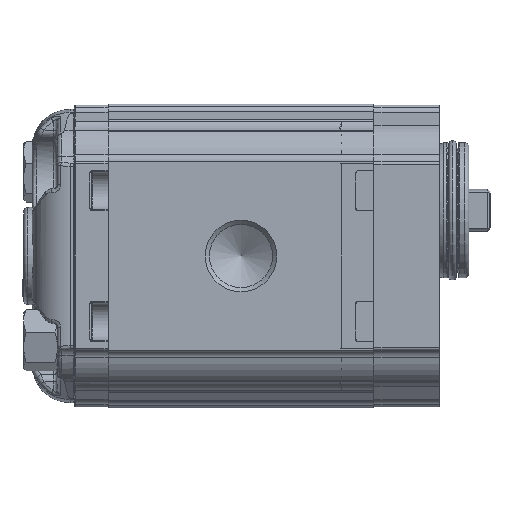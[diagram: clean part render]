
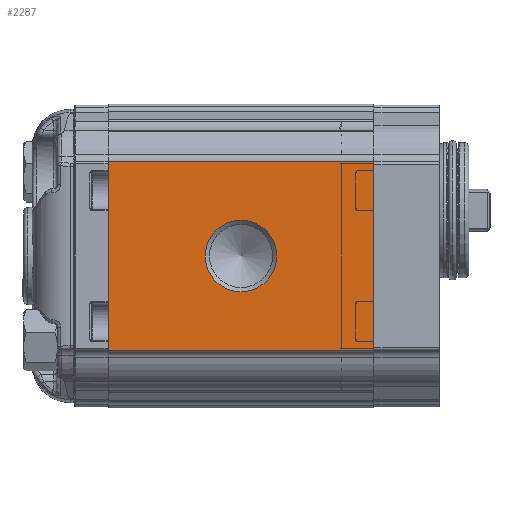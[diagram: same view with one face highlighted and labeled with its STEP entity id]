
A CAD part, left-side view. The second image highlights one B-rep face of the part: STEP entity #2287.
In plain terms, the highlighted planar face has unit normal (-1, 0, 0).
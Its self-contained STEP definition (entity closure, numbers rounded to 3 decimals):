
#2287 = ADVANCED_FACE( '', ( #6240, #6241 ), #6242, .T. );
#6240 = FACE_BOUND( '', #12470, .T. );
#6241 = FACE_OUTER_BOUND( '', #12471, .T. );
#6242 = PLANE( '', #12472 );
#12470 = EDGE_LOOP( '', ( #22925 ) );
#12471 = EDGE_LOOP( '', ( #22926, #22927, #22928, #22929 ) );
#12472 = AXIS2_PLACEMENT_3D( '', #22930, #22931, #22932 );
#22925 = ORIENTED_EDGE( '', *, *, #38493, .F. );
#22926 = ORIENTED_EDGE( '', *, *, #38494, .T. );
#22927 = ORIENTED_EDGE( '', *, *, #38464, .T. );
#22928 = ORIENTED_EDGE( '', *, *, #38495, .T. );
#22929 = ORIENTED_EDGE( '', *, *, #38496, .F. );
#22930 = CARTESIAN_POINT( '', ( -33., 133.537, 48.138 ) );
#22931 = DIRECTION( '', ( -1., 0., 0. ) );
#22932 = DIRECTION( '', ( 0., 0., 1. ) );
#38464 = EDGE_CURVE( '', #45869, #45867, #45870, .T. );
#38493 = EDGE_CURVE( '', #45914, #45914, #45915, .F. );
#38494 = EDGE_CURVE( '', #45916, #45869, #45917, .T. );
#38495 = EDGE_CURVE( '', #45867, #45918, #45919, .F. );
#38496 = EDGE_CURVE( '', #45916, #45918, #45920, .T. );
#45867 = VERTEX_POINT( '', #57269 );
#45869 = VERTEX_POINT( '', #57271 );
#45870 = LINE( '', #57272, #57273 );
#45914 = VERTEX_POINT( '', #57329 );
#45915 = CIRCLE( '', #57330, 8.475 );
#45916 = VERTEX_POINT( '', #57331 );
#45917 = LINE( '', #57332, #57333 );
#45918 = VERTEX_POINT( '', #57334 );
#45919 = LINE( '', #57335, #57336 );
#45920 = LINE( '', #57337, #57338 );
#57269 = CARTESIAN_POINT( '', ( -33., 0., 22.5 ) );
#57271 = CARTESIAN_POINT( '', ( -33., 0., -22.5 ) );
#57272 = CARTESIAN_POINT( '', ( -33., 0., -21.711 ) );
#57273 = VECTOR( '', #72960, 1000. );
#57329 = CARTESIAN_POINT( '', ( -33., 31.5, -8.475 ) );
#57330 = AXIS2_PLACEMENT_3D( '', #73006, #73007, #73008 );
#57331 = CARTESIAN_POINT( '', ( -33., 63., -22.5 ) );
#57332 = CARTESIAN_POINT( '', ( -33., 63., -22.5 ) );
#57333 = VECTOR( '', #73009, 1000. );
#57334 = CARTESIAN_POINT( '', ( -33., 63., 22.5 ) );
#57335 = CARTESIAN_POINT( '', ( -33., 63., 22.5 ) );
#57336 = VECTOR( '', #73010, 1000. );
#57337 = CARTESIAN_POINT( '', ( -33., 63., -21.711 ) );
#57338 = VECTOR( '', #73011, 1000. );
#72960 = DIRECTION( '', ( 0., 0., 1. ) );
#73006 = CARTESIAN_POINT( '', ( -33., 31.5, 0. ) );
#73007 = DIRECTION( '', ( 1., 0., 0. ) );
#73008 = DIRECTION( '', ( 0., 0., -1. ) );
#73009 = DIRECTION( '', ( 0., -1., 0. ) );
#73010 = DIRECTION( '', ( 0., -1., 0. ) );
#73011 = DIRECTION( '', ( 0., 0., 1. ) );
